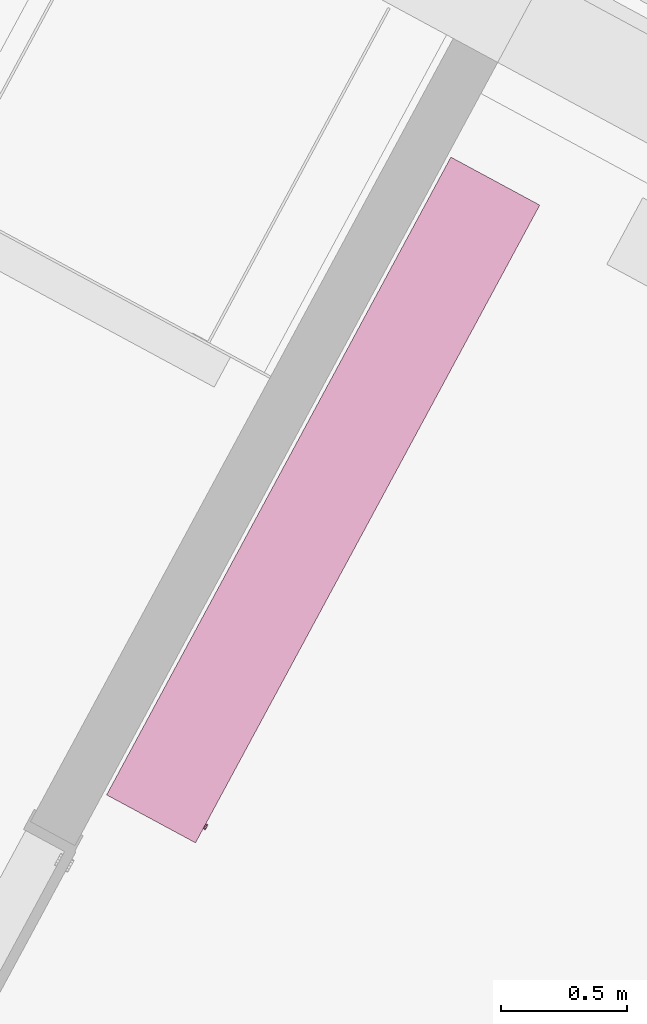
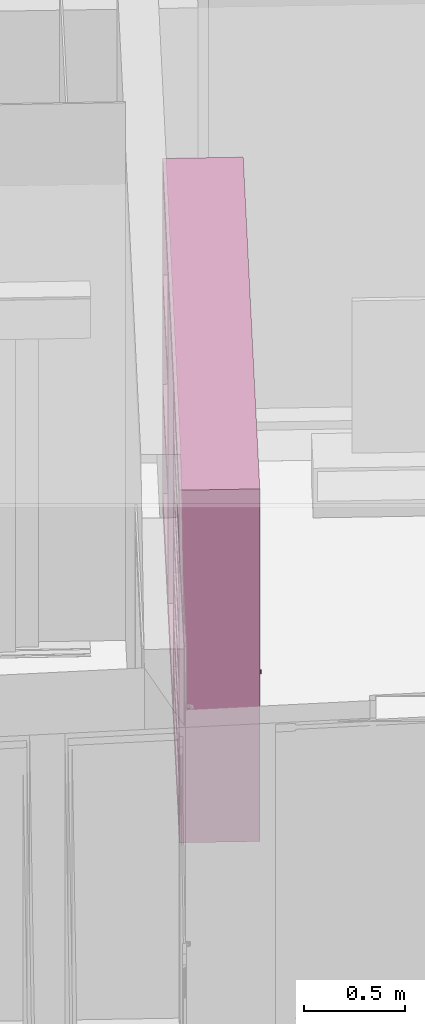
# One storey, part 34 of 41: 1 furnishing.
"""IFC2X3 building model written with IfcOpenShell, lengths in metres."""

from ifc_helpers import new_model, entity, si_unit, converted_unit, derived_unit, money_unit, direction, frame, origin_with_axes, place, context, subcontext, project, spatial, faceted_brep, type_object, element, save


model = new_model("IFC2X3")

# Units and contexts
model_context = context("Model", 3, precision=1e-05, world=origin_with_axes(), true_north=direction((0.0, 1.0)))
body_context = subcontext(model_context, "Body", "Model", "MODEL_VIEW")
ifc_project = project(units=[si_unit("LENGTHUNIT", "METRE"), si_unit("AREAUNIT", "SQUARE_METRE"), si_unit("VOLUMEUNIT", "CUBIC_METRE"), converted_unit("PLANEANGLEUNIT", "DEGREE", entity("IfcPlaneAngleMeasure", 0.0174532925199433), si_unit("PLANEANGLEUNIT", "RADIAN"), dimensions=[0, 0, 0, 0, 0, 0, 0]), money_unit("EUR"), converted_unit("TIMEUNIT", "Year", entity("IfcTimeMeasure", 31556926.0), si_unit("TIMEUNIT", "SECOND"), dimensions=[0, 0, 1, 0, 0, 0, 0]), si_unit("MASSUNIT", "GRAM", prefix="KILO"), si_unit("THERMODYNAMICTEMPERATUREUNIT", "DEGREE_CELSIUS"), si_unit("LUMINOUSINTENSITYUNIT", "LUMEN"), si_unit("ENERGYUNIT", "JOULE", prefix="MEGA"), derived_unit("THERMALCONDUCTANCEUNIT", [(si_unit("POWERUNIT", "WATT"), 1), (si_unit("LENGTHUNIT", "METRE"), -1), (si_unit("THERMODYNAMICTEMPERATUREUNIT", "KELVIN"), -1)]), derived_unit("SPECIFICHEATCAPACITYUNIT", [(si_unit("ENERGYUNIT", "JOULE"), 1), (si_unit("MASSUNIT", "GRAM", prefix="KILO"), -1), (si_unit("THERMODYNAMICTEMPERATUREUNIT", "KELVIN"), -1)]), derived_unit("MASSDENSITYUNIT", [(si_unit("MASSUNIT", "GRAM", prefix="KILO"), 1), (si_unit("VOLUMEUNIT", "CUBIC_METRE"), -1)])], contexts=[model_context])

# Site, building, storey
site_placement = place(None, frame((-3.949935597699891, 1.740105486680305, 0.0), z_axis=(0.0, 0.0, 1.0), x_axis=(0.8799804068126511, -0.475009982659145, 0.0)))
site = spatial("IfcSite", under=ifc_project, at=site_placement, Name="Gelände", CompositionType="ELEMENT")
building_placement = place(site_placement, origin_with_axes())
building = spatial("IfcBuilding", under=site, at=building_placement, Name="Gebäude", CompositionType="ELEMENT")
storey_placement = place(building_placement, frame((0.0, 0.0, 4.55), z_axis=(0.0, 0.0, 1.0), x_axis=(1.0, 0.0, 0.0)))
storey = spatial("IfcBuildingStorey", under=building, at=storey_placement, Name="Staffelgeschoss", CompositionType="ELEMENT", Elevation=4.55)

# Furnishing
furniture_type = type_object("IfcFurnitureType", Name="Kleiderschrank modular 22", AssemblyPlace="NOTDEFINED")
furnishing_placement = place(storey_placement, frame((17.78251543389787, 10.23955005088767, 0.0), z_axis=(0.0, 0.0, 1.0), x_axis=(0.0, 1.0, 0.0)))
element("IfcFurnishingElement", 1, at=furnishing_placement, inside=storey, type_object=furniture_type, Name="Objekt-0066", ObjectType="FURNITURE", context=body_context, shape_type="Brep", body=[
    faceted_brep([(-2.869979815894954, 0.4000000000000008, 0.09999999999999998), (-2.869979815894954, 0.0, 0.1), (-2.869979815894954, 0.0, 2.105), (-2.869979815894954, 0.4000000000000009, 2.105), (0.0, 0.4000000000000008, 0.09999999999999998), (0.0, 0.0, 0.1), (0.0, 0.0, 2.105), (-2.849979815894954, 0.0, 0.12), (-2.849979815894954, 0.0, 2.085), (-0.02, 0.0, 2.085), (-0.02, 0.0, 0.12), (0.0, 0.4000000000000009, 2.105), (-2.849979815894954, 0.4000000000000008, 0.12), (-0.02, 0.4000000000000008, 0.12), (-0.02, 0.4000000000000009, 2.085), (-2.849979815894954, 0.4000000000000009, 2.085)], [[[0, 1, 2, 3]], [[4, 5, 1, 0]], [[1, 5, 6, 2], [7, 8, 9, 10]], [[3, 2, 6, 11]], [[0, 3, 11, 4], [12, 13, 14, 15]], [[11, 6, 5, 4]], [[15, 8, 7, 12]], [[14, 9, 8, 15]], [[13, 10, 9, 14]], [[12, 7, 10, 13]]]),
    faceted_brep([(-0.9499932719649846, 0.4000000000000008, 0.12), (-0.9499932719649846, 0.4000000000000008, 2.085), (-0.9499932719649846, 0.07, 2.085), (-0.9499932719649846, 0.07, 0.12), (-0.9699932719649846, 0.4000000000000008, 0.12), (-0.9699932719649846, 0.4000000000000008, 2.085), (-0.9699932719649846, 0.07, 2.085), (-0.9699932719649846, 0.07, 0.12)], [[[0, 1, 2, 3]], [[4, 5, 1, 0]], [[1, 5, 6, 2]], [[3, 2, 6, 7]], [[0, 3, 7, 4]], [[7, 6, 5, 4]]]),
    faceted_brep([(-1.899986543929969, 0.4000000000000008, 0.12), (-1.899986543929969, 0.4000000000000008, 2.085), (-1.899986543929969, 0.07, 2.085), (-1.899986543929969, 0.07, 0.12), (-1.919986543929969, 0.4000000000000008, 0.12), (-1.919986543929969, 0.4000000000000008, 2.085), (-1.919986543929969, 0.07, 2.085), (-1.919986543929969, 0.07, 0.12)], [[[0, 1, 2, 3]], [[4, 5, 1, 0]], [[1, 5, 6, 2]], [[3, 2, 6, 7]], [[0, 3, 7, 4]], [[7, 6, 5, 4]]]),
    faceted_brep([(-2.869979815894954, 0.4000000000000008, 2.105), (-2.869979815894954, 0.0, 2.105), (-2.869979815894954, 0.0, 2.135), (-2.869979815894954, 0.4000000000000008, 2.135), (0.0, 0.4000000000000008, 2.105), (0.0, 0.0, 2.105), (0.0, 0.0, 2.135), (0.0, 0.4000000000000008, 2.135)], [[[0, 1, 2, 3]], [[0, 4, 5, 1]], [[1, 5, 6, 2]], [[3, 2, 6, 7]], [[4, 0, 3, 7]], [[5, 4, 7, 6]]]),
    faceted_brep([(-0.02000000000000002, 0.4000000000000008, 0.0), (-0.02000000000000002, 0.4000000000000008, 0.1), (-0.02000000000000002, 0.3800000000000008, 0.1), (-0.02000000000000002, 0.3800000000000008, 0.0), (-2.849979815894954, 0.4000000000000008, 0.0), (-2.849979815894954, 0.4000000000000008, 0.1), (-2.849979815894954, 0.3800000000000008, 0.1), (-2.849979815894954, 0.3800000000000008, 0.0)], [[[0, 1, 2, 3]], [[4, 5, 1, 0]], [[1, 5, 6, 2]], [[3, 2, 6, 7]], [[0, 3, 7, 4]], [[7, 6, 5, 4]]]),
    faceted_brep([(0.0, 0.4000000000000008, 0.0), (0.0, 0.4000000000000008, 0.1), (0.0, 0.0, 0.1), (0.0, 0.0, 0.0), (-0.02000000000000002, 0.4000000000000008, 0.0), (-0.02000000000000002, 0.4000000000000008, 0.1), (-0.02000000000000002, 0.0, 0.1), (-0.02000000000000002, 0.0, 0.0)], [[[0, 1, 2, 3]], [[4, 5, 1, 0]], [[1, 5, 6, 2]], [[3, 2, 6, 7]], [[0, 3, 7, 4]], [[7, 6, 5, 4]]]),
    faceted_brep([(-2.849979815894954, 0.4000000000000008, 0.0), (-2.849979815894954, 0.4000000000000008, 0.1), (-2.849979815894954, 0.0, 0.1), (-2.849979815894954, 0.0, 0.0), (-2.869979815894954, 0.4000000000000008, 0.0), (-2.869979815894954, 0.4000000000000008, 0.1), (-2.869979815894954, 0.0, 0.1), (-2.869979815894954, 0.0, 0.0)], [[[0, 1, 2, 3]], [[4, 5, 1, 0]], [[1, 5, 6, 2]], [[3, 2, 6, 7]], [[0, 3, 7, 4]], [[7, 6, 5, 4]]]),
    faceted_brep([(-0.02000000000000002, 0.04000000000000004, 0.0), (-0.02000000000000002, 0.04000000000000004, 0.1), (-0.02000000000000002, 0.02000000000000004, 0.1), (-0.02000000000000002, 0.02000000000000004, 0.0), (-2.849979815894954, 0.04000000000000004, 0.0), (-2.849979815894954, 0.04000000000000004, 0.1), (-2.849979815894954, 0.02000000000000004, 0.1), (-2.849979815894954, 0.02000000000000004, 0.0)], [[[0, 1, 2, 3]], [[4, 5, 1, 0]], [[1, 5, 6, 2]], [[3, 2, 6, 7]], [[0, 3, 7, 4]], [[7, 6, 5, 4]]]),
    faceted_brep([(-0.02, 0.4000000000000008, 0.7616666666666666), (-0.02, 0.4000000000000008, 0.7816666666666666), (-0.02, 0.07, 0.7816666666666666), (-0.02, 0.07, 0.7616666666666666), (-0.9499932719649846, 0.4000000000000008, 0.7616666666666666), (-0.9499932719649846, 0.4000000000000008, 0.7816666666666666), (-0.9499932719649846, 0.07, 0.7816666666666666), (-0.9499932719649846, 0.07, 0.7616666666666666)], [[[0, 1, 2, 3]], [[4, 5, 1, 0]], [[1, 5, 6, 2]], [[3, 2, 6, 7]], [[0, 3, 7, 4]], [[7, 6, 5, 4]]]),
    faceted_brep([(-0.02, 0.4000000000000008, 1.423333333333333), (-0.02, 0.4000000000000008, 1.443333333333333), (-0.02, 0.07, 1.443333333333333), (-0.02, 0.07, 1.423333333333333), (-0.9499932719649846, 0.4000000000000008, 1.423333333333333), (-0.9499932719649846, 0.4000000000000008, 1.443333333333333), (-0.9499932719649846, 0.07, 1.443333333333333), (-0.9499932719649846, 0.07, 1.423333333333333)], [[[0, 1, 2, 3]], [[4, 5, 1, 0]], [[1, 5, 6, 2]], [[3, 2, 6, 7]], [[0, 3, 7, 4]], [[7, 6, 5, 4]]]),
    faceted_brep([(-0.9699932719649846, 0.2190000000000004, 1.9475), (-0.9949932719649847, 0.2190000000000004, 1.9475), (-0.9949932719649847, 0.2270000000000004, 1.933643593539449), (-0.9699932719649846, 0.2270000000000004, 1.933643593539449), (-0.9699932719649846, 0.2190000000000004, 1.9725), (-0.9949932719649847, 0.2190000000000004, 1.9725), (-0.9949932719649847, 0.2270000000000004, 1.986356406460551), (-0.9949932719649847, 0.2430000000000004, 1.986356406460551), (-0.9949932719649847, 0.2510000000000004, 1.9725), (-0.9949932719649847, 0.2510000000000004, 1.9475), (-0.9949932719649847, 0.2430000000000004, 1.933643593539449), (-0.9699932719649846, 0.2430000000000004, 1.933643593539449), (-0.9699932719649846, 0.2510000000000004, 1.9475), (-0.9699932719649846, 0.2510000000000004, 1.9725), (-0.9699932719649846, 0.2430000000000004, 1.986356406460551), (-0.9699932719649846, 0.2270000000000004, 1.986356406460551)], [[[0, 1, 2, 3]], [[4, 5, 1, 0]], [[1, 5, 6, 7, 8, 9, 10, 2]], [[3, 2, 10, 11]], [[0, 3, 11, 12, 13, 14, 15, 4]], [[15, 6, 5, 4]], [[14, 7, 6, 15]], [[13, 8, 7, 14]], [[12, 9, 8, 13]], [[11, 10, 9, 12]]]),
    faceted_brep([(-0.9949932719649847, 0.2225000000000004, 1.9475), (-1.874986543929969, 0.2225000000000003, 1.9475), (-1.874986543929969, 0.2287500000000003, 1.936674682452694), (-0.9949932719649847, 0.2287500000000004, 1.936674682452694), (-0.9949932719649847, 0.2225000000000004, 1.9725), (-1.874986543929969, 0.2225000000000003, 1.9725), (-1.874986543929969, 0.2287500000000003, 1.983325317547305), (-1.874986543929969, 0.2412500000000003, 1.983325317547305), (-1.874986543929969, 0.2475000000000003, 1.9725), (-1.874986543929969, 0.2475000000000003, 1.9475), (-1.874986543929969, 0.2412500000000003, 1.936674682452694), (-0.9949932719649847, 0.2412500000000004, 1.936674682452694), (-0.9949932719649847, 0.2475000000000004, 1.9475), (-0.9949932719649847, 0.2475000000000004, 1.9725), (-0.9949932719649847, 0.2412500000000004, 1.983325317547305), (-0.9949932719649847, 0.2287500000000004, 1.983325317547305)], [[[0, 1, 2, 3]], [[4, 5, 1, 0]], [[1, 5, 6, 7, 8, 9, 10, 2]], [[3, 2, 10, 11]], [[0, 3, 11, 12, 13, 14, 15, 4]], [[15, 6, 5, 4]], [[14, 7, 6, 15]], [[13, 8, 7, 14]], [[12, 9, 8, 13]], [[11, 10, 9, 12]]]),
    faceted_brep([(-1.874986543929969, 0.2190000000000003, 1.9475), (-1.899986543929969, 0.2190000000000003, 1.9475), (-1.899986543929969, 0.2270000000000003, 1.933643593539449), (-1.874986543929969, 0.2270000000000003, 1.933643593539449), (-1.874986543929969, 0.2190000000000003, 1.9725), (-1.899986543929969, 0.2190000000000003, 1.9725), (-1.899986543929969, 0.2270000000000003, 1.986356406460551), (-1.899986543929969, 0.2430000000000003, 1.986356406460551), (-1.899986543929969, 0.2510000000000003, 1.9725), (-1.899986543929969, 0.2510000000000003, 1.9475), (-1.899986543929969, 0.2430000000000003, 1.933643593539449), (-1.874986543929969, 0.2430000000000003, 1.933643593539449), (-1.874986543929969, 0.2510000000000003, 1.9475), (-1.874986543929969, 0.2510000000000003, 1.9725), (-1.874986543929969, 0.2430000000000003, 1.986356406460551), (-1.874986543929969, 0.2270000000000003, 1.986356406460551)], [[[0, 1, 2, 3]], [[4, 5, 1, 0]], [[1, 5, 6, 7, 8, 9, 10, 2]], [[3, 2, 10, 11]], [[0, 3, 11, 12, 13, 14, 15, 4]], [[15, 6, 5, 4]], [[14, 7, 6, 15]], [[13, 8, 7, 14]], [[12, 9, 8, 13]], [[11, 10, 9, 12]]]),
    faceted_brep([(-1.919986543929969, 0.4000000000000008, 0.3835714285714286), (-1.919986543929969, 0.4000000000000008, 0.4035714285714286), (-1.919986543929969, 0.07, 0.4035714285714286), (-1.919986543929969, 0.07, 0.3835714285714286), (-2.849979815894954, 0.4000000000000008, 0.3835714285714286), (-2.849979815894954, 0.4000000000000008, 0.4035714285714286), (-2.849979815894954, 0.07, 0.4035714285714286), (-2.849979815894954, 0.07, 0.3835714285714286)], [[[0, 1, 2, 3]], [[4, 5, 1, 0]], [[1, 5, 6, 2]], [[3, 2, 6, 7]], [[0, 3, 7, 4]], [[7, 6, 5, 4]]]),
    faceted_brep([(-1.919986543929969, 0.4000000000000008, 0.667142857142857), (-1.919986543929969, 0.4000000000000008, 0.687142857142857), (-1.919986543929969, 0.07, 0.687142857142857), (-1.919986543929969, 0.07, 0.667142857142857), (-2.849979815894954, 0.4000000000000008, 0.667142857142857), (-2.849979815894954, 0.4000000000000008, 0.687142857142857), (-2.849979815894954, 0.07, 0.687142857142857), (-2.849979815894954, 0.07, 0.667142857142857)], [[[0, 1, 2, 3]], [[4, 5, 1, 0]], [[1, 5, 6, 2]], [[3, 2, 6, 7]], [[0, 3, 7, 4]], [[7, 6, 5, 4]]]),
    faceted_brep([(-1.919986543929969, 0.4000000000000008, 0.9507142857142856), (-1.919986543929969, 0.4000000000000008, 0.9707142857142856), (-1.919986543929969, 0.07, 0.9707142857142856), (-1.919986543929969, 0.07, 0.9507142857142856), (-2.849979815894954, 0.4000000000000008, 0.9507142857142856), (-2.849979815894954, 0.4000000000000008, 0.9707142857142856), (-2.849979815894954, 0.07, 0.9707142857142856), (-2.849979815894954, 0.07, 0.9507142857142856)], [[[0, 1, 2, 3]], [[4, 5, 1, 0]], [[1, 5, 6, 2]], [[3, 2, 6, 7]], [[0, 3, 7, 4]], [[7, 6, 5, 4]]]),
    faceted_brep([(-1.919986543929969, 0.4000000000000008, 1.234285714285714), (-1.919986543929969, 0.4000000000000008, 1.254285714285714), (-1.919986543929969, 0.07, 1.254285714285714), (-1.919986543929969, 0.07, 1.234285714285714), (-2.849979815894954, 0.4000000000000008, 1.234285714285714), (-2.849979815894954, 0.4000000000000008, 1.254285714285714), (-2.849979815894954, 0.07, 1.254285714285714), (-2.849979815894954, 0.07, 1.234285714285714)], [[[0, 1, 2, 3]], [[4, 5, 1, 0]], [[1, 5, 6, 2]], [[3, 2, 6, 7]], [[0, 3, 7, 4]], [[7, 6, 5, 4]]]),
    faceted_brep([(-1.919986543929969, 0.4000000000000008, 1.517857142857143), (-1.919986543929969, 0.4000000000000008, 1.537857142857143), (-1.919986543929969, 0.07, 1.537857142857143), (-1.919986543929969, 0.07, 1.517857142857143), (-2.849979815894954, 0.4000000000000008, 1.517857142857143), (-2.849979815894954, 0.4000000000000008, 1.537857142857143), (-2.849979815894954, 0.07, 1.537857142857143), (-2.849979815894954, 0.07, 1.517857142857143)], [[[0, 1, 2, 3]], [[4, 5, 1, 0]], [[1, 5, 6, 2]], [[3, 2, 6, 7]], [[0, 3, 7, 4]], [[7, 6, 5, 4]]]),
    faceted_brep([(-1.919986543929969, 0.4000000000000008, 1.801428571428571), (-1.919986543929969, 0.4000000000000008, 1.821428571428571), (-1.919986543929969, 0.07, 1.821428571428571), (-1.919986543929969, 0.07, 1.801428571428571), (-2.849979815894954, 0.4000000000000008, 1.801428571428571), (-2.849979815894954, 0.4000000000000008, 1.821428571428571), (-2.849979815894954, 0.07, 1.821428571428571), (-2.849979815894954, 0.07, 1.801428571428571)], [[[0, 1, 2, 3]], [[4, 5, 1, 0]], [[1, 5, 6, 2]], [[3, 2, 6, 7]], [[0, 3, 7, 4]], [[7, 6, 5, 4]]]),
    faceted_brep([(-0.02, 0.05000000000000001, 0.12), (-0.02, 0.01000000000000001, 0.12), (-2.849979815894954, 0.01000000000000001, 0.12), (-2.849979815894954, 0.05000000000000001, 0.12), (-0.02, 0.05000000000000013, 2.085), (-0.02, 0.01000000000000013, 2.085), (-2.849979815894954, 0.01000000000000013, 2.085), (-0.025, 0.01000000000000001, 0.125), (-2.844979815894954, 0.01000000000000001, 0.125), (-2.844979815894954, 0.01000000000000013, 2.08), (-0.025, 0.01000000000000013, 2.08), (-2.849979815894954, 0.05000000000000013, 2.085), (-0.025, 0.05000000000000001, 0.125), (-0.025, 0.05000000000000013, 2.08), (-2.844979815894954, 0.05000000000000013, 2.08), (-2.844979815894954, 0.05000000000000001, 0.125)], [[[0, 1, 2, 3]], [[4, 5, 1, 0]], [[1, 5, 6, 2], [7, 8, 9, 10]], [[3, 2, 6, 11]], [[0, 3, 11, 4], [12, 13, 14, 15]], [[11, 6, 5, 4]], [[15, 8, 7, 12]], [[14, 9, 8, 15]], [[13, 10, 9, 14]], [[12, 7, 10, 13]]]),
    faceted_brep([(-1.434989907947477, 0.05, 0.125), (-1.434989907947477, 0.03, 0.125), (-1.434989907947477, 0.03000000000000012, 2.08), (-1.434989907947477, 0.05000000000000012, 2.08), (-1.374989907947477, 0.05000000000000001, 0.185), (-1.374989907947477, 0.03000000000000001, 0.185), (-1.374989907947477, 0.03000000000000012, 2.02), (-1.374989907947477, 0.05000000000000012, 2.02)], [[[0, 1, 2, 3]], [[4, 5, 1, 0]], [[1, 5, 6, 2]], [[3, 2, 6, 7]], [[0, 3, 7, 4]], [[7, 6, 5, 4]]]),
    faceted_brep([(-0.08500000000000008, 0.05000000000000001, 0.185), (-0.08500000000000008, 0.03000000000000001, 0.185), (-0.08500000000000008, 0.03000000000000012, 2.02), (-0.08500000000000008, 0.05000000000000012, 2.02), (-0.02500000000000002, 0.05, 0.125), (-0.02500000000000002, 0.03, 0.125), (-0.02500000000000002, 0.03000000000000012, 2.08), (-0.02500000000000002, 0.05000000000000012, 2.08)], [[[0, 1, 2, 3]], [[4, 5, 1, 0]], [[1, 5, 6, 2]], [[3, 2, 6, 7]], [[0, 3, 7, 4]], [[7, 6, 5, 4]]]),
    faceted_brep([(-0.02500000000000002, 0.05, 0.125), (-0.02500000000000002, 0.03, 0.125), (-1.434989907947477, 0.03, 0.125), (-1.434989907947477, 0.05, 0.125), (-0.08500000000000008, 0.05000000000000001, 0.185), (-0.08500000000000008, 0.03000000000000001, 0.185), (-1.374989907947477, 0.03000000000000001, 0.185), (-1.374989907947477, 0.05000000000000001, 0.185)], [[[0, 1, 2, 3]], [[4, 5, 1, 0]], [[1, 5, 6, 2]], [[3, 2, 6, 7]], [[0, 3, 7, 4]], [[7, 6, 5, 4]]]),
    faceted_brep([(-0.08500000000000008, 0.05000000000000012, 2.02), (-0.08500000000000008, 0.03000000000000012, 2.02), (-1.374989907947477, 0.03000000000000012, 2.02), (-1.374989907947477, 0.05000000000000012, 2.02), (-0.02500000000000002, 0.05000000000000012, 2.08), (-0.02500000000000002, 0.03000000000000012, 2.08), (-1.434989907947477, 0.03000000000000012, 2.08), (-1.434989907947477, 0.05000000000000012, 2.08)], [[[0, 1, 2, 3]], [[4, 5, 1, 0]], [[1, 5, 6, 2]], [[3, 2, 6, 7]], [[0, 3, 7, 4]], [[7, 6, 5, 4]]]),
    faceted_brep([(-1.374989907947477, 0.04500000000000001, 0.185), (-1.374989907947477, 0.03500000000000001, 0.185), (-1.374989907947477, 0.03500000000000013, 2.02), (-1.374989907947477, 0.04500000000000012, 2.02), (-0.08500000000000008, 0.04500000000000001, 0.185), (-0.08500000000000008, 0.03500000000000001, 0.185), (-0.08500000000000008, 0.03500000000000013, 2.02), (-0.08500000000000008, 0.04500000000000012, 2.02)], [[[0, 1, 2, 3]], [[4, 5, 1, 0]], [[1, 5, 6, 2]], [[3, 2, 6, 7]], [[0, 3, 7, 4]], [[7, 6, 5, 4]]]),
    faceted_brep([(-0.0646076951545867, 0.035, 0.969), (-0.06899999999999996, 0.035, 0.9646076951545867), (-0.07499999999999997, 0.035, 0.963), (-0.08099999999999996, 0.035, 0.9646076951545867), (-0.08539230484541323, 0.035, 0.969), (-0.08699999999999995, 0.035, 0.975), (-0.08539230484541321, 0.035, 0.981), (-0.08099999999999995, 0.035, 0.9853923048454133), (-0.07499999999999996, 0.035, 0.987), (-0.06899999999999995, 0.035, 0.9853923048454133), (-0.0646076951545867, 0.035, 0.981), (-0.06299999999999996, 0.035, 0.975), (-0.0646076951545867, 0.01, 0.969), (-0.06899999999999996, 0.01, 0.9646076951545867), (-0.07499999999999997, 0.01, 0.963), (-0.08099999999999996, 0.01, 0.9646076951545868), (-0.08539230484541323, 0.01, 0.969), (-0.08699999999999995, 0.01, 0.975), (-0.08539230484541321, 0.01, 0.981), (-0.08099999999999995, 0.01, 0.9853923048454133), (-0.07499999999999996, 0.01, 0.987), (-0.06899999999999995, 0.01, 0.9853923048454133), (-0.0646076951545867, 0.01, 0.981), (-0.06299999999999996, 0.01, 0.975)], [[[0, 1, 2, 3, 4, 5, 6, 7, 8, 9, 10, 11]], [[1, 0, 12, 13]], [[2, 1, 13, 14]], [[3, 2, 14, 15]], [[4, 3, 15, 16]], [[5, 4, 16, 17]], [[6, 5, 17, 18]], [[7, 6, 18, 19]], [[8, 7, 19, 20]], [[9, 8, 20, 21]], [[10, 9, 21, 22]], [[11, 10, 22, 23]], [[0, 11, 23, 12]], [[12, 23, 22, 21, 20, 19, 18, 17, 16, 15, 14, 13]]]),
    faceted_brep([(-2.844979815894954, 0.03, 0.125), (-2.844979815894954, 0.009999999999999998, 0.125), (-2.844979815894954, 0.01000000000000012, 2.08), (-2.844979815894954, 0.03000000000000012, 2.08), (-2.784979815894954, 0.03, 0.185), (-2.784979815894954, 0.01, 0.185), (-2.784979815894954, 0.01000000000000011, 2.02), (-2.784979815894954, 0.03000000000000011, 2.02)], [[[0, 1, 2, 3]], [[4, 5, 1, 0]], [[1, 5, 6, 2]], [[3, 2, 6, 7]], [[0, 3, 7, 4]], [[7, 6, 5, 4]]]),
    faceted_brep([(-1.494989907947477, 0.03, 0.185), (-1.494989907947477, 0.01, 0.185), (-1.494989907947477, 0.01000000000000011, 2.02), (-1.494989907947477, 0.03000000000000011, 2.02), (-1.434989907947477, 0.03, 0.125), (-1.434989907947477, 0.009999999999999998, 0.125), (-1.434989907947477, 0.01000000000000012, 2.08), (-1.434989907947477, 0.03000000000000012, 2.08)], [[[0, 1, 2, 3]], [[4, 5, 1, 0]], [[1, 5, 6, 2]], [[3, 2, 6, 7]], [[0, 3, 7, 4]], [[7, 6, 5, 4]]]),
    faceted_brep([(-1.434989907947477, 0.03, 0.125), (-1.434989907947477, 0.009999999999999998, 0.125), (-2.844979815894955, 0.009999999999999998, 0.125), (-2.844979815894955, 0.03, 0.125), (-1.494989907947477, 0.03, 0.185), (-1.494989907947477, 0.01, 0.185), (-2.784979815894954, 0.01, 0.185), (-2.784979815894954, 0.03, 0.185)], [[[0, 1, 2, 3]], [[4, 5, 1, 0]], [[1, 5, 6, 2]], [[3, 2, 6, 7]], [[0, 3, 7, 4]], [[7, 6, 5, 4]]]),
    faceted_brep([(-1.494989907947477, 0.03000000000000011, 2.02), (-1.494989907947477, 0.01000000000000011, 2.02), (-2.784979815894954, 0.01000000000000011, 2.02), (-2.784979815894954, 0.03000000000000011, 2.02), (-1.434989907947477, 0.03000000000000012, 2.08), (-1.434989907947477, 0.01000000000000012, 2.08), (-2.844979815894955, 0.01000000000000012, 2.08), (-2.844979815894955, 0.03000000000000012, 2.08)], [[[0, 1, 2, 3]], [[4, 5, 1, 0]], [[1, 5, 6, 2]], [[3, 2, 6, 7]], [[0, 3, 7, 4]], [[7, 6, 5, 4]]]),
    faceted_brep([(-2.784979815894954, 0.025, 0.185), (-2.784979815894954, 0.02, 0.185), (-2.784979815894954, 0.02000000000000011, 2.02), (-2.784979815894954, 0.02500000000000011, 2.02), (-1.494989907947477, 0.025, 0.185), (-1.494989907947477, 0.02, 0.185), (-1.494989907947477, 0.02000000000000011, 2.02), (-1.494989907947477, 0.02500000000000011, 2.02)], [[[0, 1, 2, 3]], [[4, 5, 1, 0]], [[1, 5, 6, 2]], [[3, 2, 6, 7]], [[0, 3, 7, 4]], [[7, 6, 5, 4]]]),
    faceted_brep([(-2.784979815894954, 0.02, 0.185), (-2.784979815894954, 0.015, 0.185), (-2.784979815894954, 0.01500000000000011, 2.02), (-2.784979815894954, 0.02000000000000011, 2.02), (-1.494989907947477, 0.02, 0.185), (-1.494989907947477, 0.015, 0.185), (-1.494989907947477, 0.01500000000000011, 2.02), (-1.494989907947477, 0.02000000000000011, 2.02)], [[[0, 1, 2, 3]], [[4, 5, 1, 0]], [[1, 5, 6, 2]], [[3, 2, 6, 7]], [[0, 3, 7, 4]], [[7, 6, 5, 4]]]),
    faceted_brep([(-2.805372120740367, 0.015, 0.969), (-2.806979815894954, 0.015, 0.975), (-2.805372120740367, 0.015, 0.981), (-2.800979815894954, 0.015, 0.9853923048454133), (-2.794979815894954, 0.015, 0.987), (-2.788979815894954, 0.015, 0.9853923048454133), (-2.784587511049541, 0.015, 0.981), (-2.782979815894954, 0.015, 0.975), (-2.784587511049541, 0.015, 0.969), (-2.788979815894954, 0.015, 0.9646076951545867), (-2.794979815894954, 0.015, 0.963), (-2.800979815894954, 0.015, 0.9646076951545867), (-2.805372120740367, -0.01, 0.969), (-2.806979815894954, -0.01, 0.975), (-2.805372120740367, -0.01, 0.981), (-2.800979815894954, -0.01, 0.9853923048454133), (-2.794979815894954, -0.01, 0.987), (-2.788979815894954, -0.01, 0.9853923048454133), (-2.784587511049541, -0.01, 0.981), (-2.782979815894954, -0.01, 0.975), (-2.784587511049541, -0.01, 0.969), (-2.788979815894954, -0.01, 0.9646076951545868), (-2.794979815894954, -0.01, 0.963), (-2.800979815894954, -0.01, 0.9646076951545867)], [[[0, 1, 2, 3, 4, 5, 6, 7, 8, 9, 10, 11]], [[0, 12, 13, 1]], [[1, 13, 14, 2]], [[2, 14, 15, 3]], [[3, 15, 16, 4]], [[4, 16, 17, 5]], [[5, 17, 18, 6]], [[6, 18, 19, 7]], [[7, 19, 20, 8]], [[8, 20, 21, 9]], [[9, 21, 22, 10]], [[10, 22, 23, 11]], [[11, 23, 12, 0]], [[12, 23, 22, 21, 20, 19, 18, 17, 16, 15, 14, 13]]]),
])

save(model, "model.ifc")
